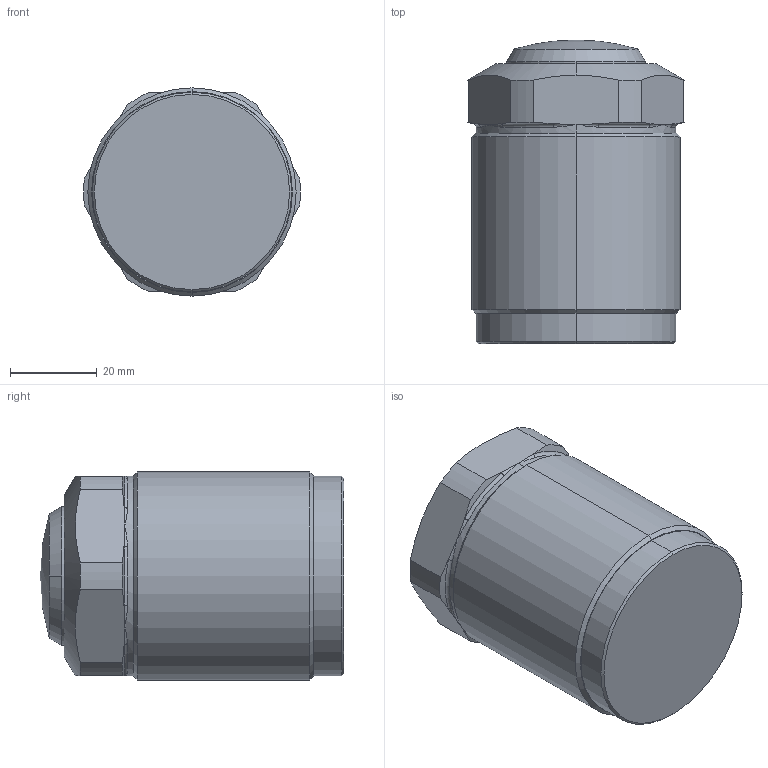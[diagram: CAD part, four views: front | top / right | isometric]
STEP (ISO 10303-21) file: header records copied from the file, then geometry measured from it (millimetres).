
FILE_DESCRIPTION((' '),'2;1');
FILE_NAME( 'CMC20-15R.X_T.stp', '2024-08-27T13:58:39', (' '), ('--- Datakit www.datakit.com---'), ' Datakit CrossCadWare V2024.1 Dec 21 2023', 'Mastercam 2025', ' ');
FILE_SCHEMA(('AUTOMOTIVE_DESIGN { 1 0 10303 214 1 1 1 1 }'));
Length unit declared in the file: millimetre
Products named in the file (1): CMC20-15R
Bounding box: 49.96 x 70 x 48 mm (x, y, z)
Volume: 117133.8 mm3; surface area: 17841.8 mm2
Topology: 2 solids, 2 shells, 64 faces, 158 edges, 87 vertices
Faces by surface type: cylinder 16, cone 16, plane 12, bspline 12, torus 6, sphere 2
Entity records: 3834 total; most frequent: CARTESIAN_POINT 2452, ORIENTED_EDGE 288, DIRECTION 274, EDGE_CURVE 144, AXIS2_PLACEMENT_3D 121, VERTEX_POINT 87, CIRCLE 68, EDGE_LOOP 67
